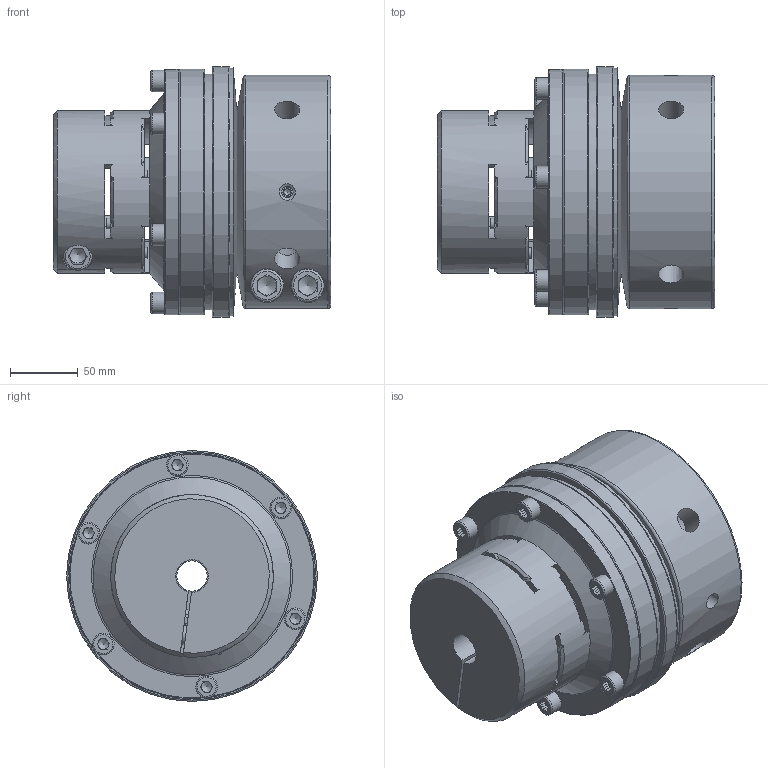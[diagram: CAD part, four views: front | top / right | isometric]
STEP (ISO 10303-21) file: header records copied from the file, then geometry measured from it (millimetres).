
FILE_DESCRIPTION( ( 'Unknown' ), '1' );
FILE_NAME( 'F:/JAKOB-STEP+IGES-Dateien/STEP-Dateien/SKB-EK/SKB-EK 1000.stp', 'Unknown', ( 'Unknown' ), ( 'Unknown' ), 'PSStep 10.1', 'Unknown', ' ' );
FILE_SCHEMA( ( 'AUTOMOTIVE_DESIGN { 1 0 10303 214 1 1 1 1 }' ) );
Length unit declared in the file: millimetre
Products named in the file (1): KT102810
Bounding box: 204.5 x 185 x 185 mm (x, y, z)
Volume: 3092617.5 mm3; surface area: 420995.9 mm2
Topology: 1 solids, 17 shells, 654 faces, 1940 edges, 1261 vertices
Faces by surface type: plane 239, cylinder 156, cone 109, torus 108, sphere 30, bspline 12
Full cylindrical faces by diameter (mm): 8 x8, 8.5 x9, 10 x6, 10.5 x6, 12 x3, 14 x3, 14.5 x1, 15 x1, 16 x8, 16.5 x2, 18.5 x4, 21 x1, 22 x1, 22.5 x1, 24 x2, 25 x2, 38 x1, 58 x2, 73 x1, 100 x1, 107.7 x1, 109.8 x1, 110 x3, 117 x1, 120 x3, 128 x2, 130 x3, 131.074 x2, 140 x3, 174 x1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
Entity records: 30576 total; most frequent: CARTESIAN_POINT 9751, ORIENTED_EDGE 3186, DIRECTION 3130, EDGE_CURVE 1593, AXIS2_PLACEMENT_3D 1337, VERTEX_POINT 1114, EDGE_LOOP 908, FACE_OUTER_BOUND 745
